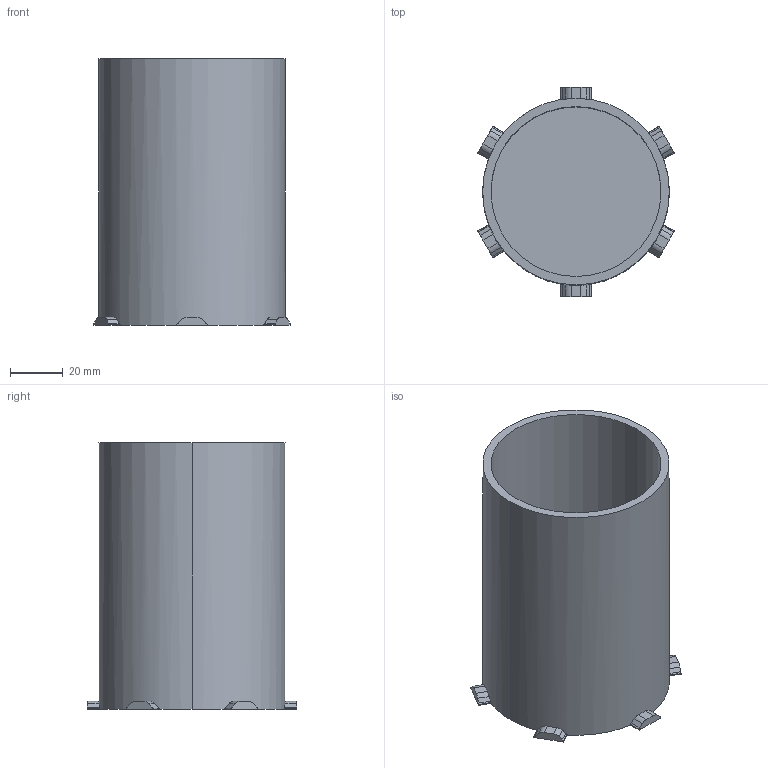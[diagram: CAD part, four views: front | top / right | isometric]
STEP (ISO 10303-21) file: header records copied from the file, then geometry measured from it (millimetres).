
FILE_DESCRIPTION(/* description */ ('STEP AP242 Edition 2','CAx-IF Rec.Pracs.---Representation and Presentation of Product Manufacturing Information (PMI)---4.0---2014-10-13','CAx-IF Rec.Pracs.---3D Tessellated Geometry---0.4---2014-09-14','2;1','CAx-IF Rec.Pracs.---User Defined Attributes---1.5---2016-08-15'),/* implementation_level */ '2;1');
FILE_NAME(/* name */ 'Game Pieces - Structure',/* time_stamp */ '2026-06-03T10:17:31Z',/* author */ (''),/* organization */ (''),/* preprocessor_version */ 'ST-DEVELOPER v20',/* originating_system */ 'ONSHAPE BY PTC INC, 1.215',/* authorisation */ ' ');
FILE_SCHEMA (('AP242_MANAGED_MODEL_BASED_3D_ENGINEERING_MIM_LF { 1 0 10303 442 3 1 4 }'));
Length unit declared in the file: metre
Products named in the file (1): Structure
Bounding box: 74.96 x 79.76 x 101.6 mm (x, y, z)
Volume: 90518.6 mm3; surface area: 50727.6 mm2
Topology: 1 solids, 1 shells, 67 faces, 192 edges, 128 vertices
Faces by surface type: cylinder 40, plane 27
Entity records: 2284 total; most frequent: CARTESIAN_POINT 508, ORIENTED_EDGE 384, DIRECTION 360, EDGE_CURVE 192, AXIS2_PLACEMENT_3D 136, VERTEX_POINT 128, LINE 88, VECTOR 88
